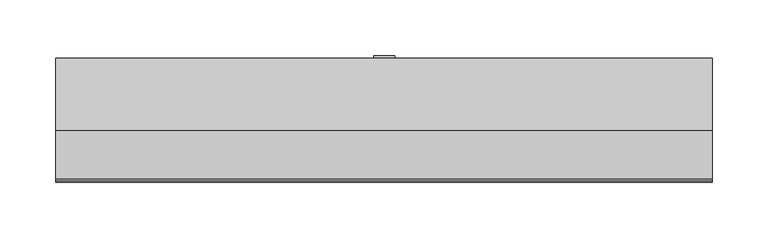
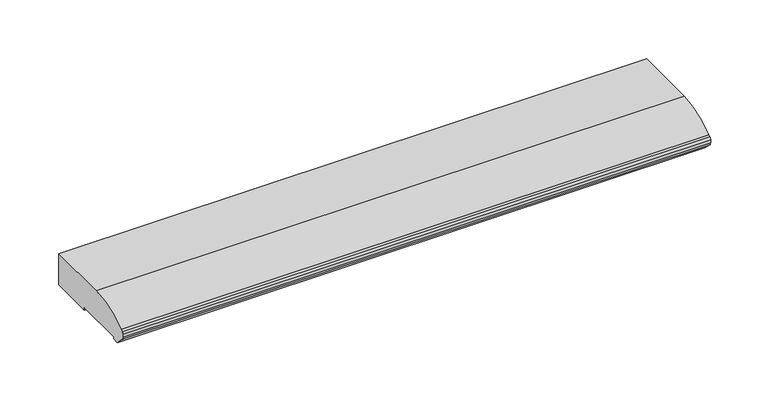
"""IFC4 building model written with IfcOpenShell, lengths in millimetres: furniture geometry, Steelcase - Answer Solution - Lighting - Bottomline Shelf Light : With Daisy Chain Cord - 23 1/4W."""

from ifc_helpers import new_model, si_unit, point, frame, frame_2d, origin, place, context, project, spatial, polyline, circle_curve, trimmed, segment, composite_curve, outline, extrude, source, transform, mapped, element, save


def furniture_37d5e29d(model_context):
    return source(origin(), model_context, "Body", "SweptSolid", [
        extrude(outline(polyline([(104.456825, 1278.001062), (101.9168184, 1278.001062), (101.9168184, 1275.8796799), (94.2968256, 1275.8796799), (94.2968256, 1278.001062), (91.756819, 1278.001062), (91.756819, 1280.4435676), (104.456825, 1280.4435676), (104.456825, 1278.001062)])), frame((-9.2714311, 0.0, 0.0), z_axis=(1.0, 0.0, 0.0), x_axis=(0.0, 1.0, 0.0)), (0.0, 0.0, 1.0), 19.05),
        extrude(outline(polyline([(9.7785689, 126.0468221), (9.7785689, 123.506825), (-9.2714311, 123.506825), (-9.2714311, 126.0468221), (9.7785689, 126.0468221)])), frame((0.0, 0.0, 1301.4509122), z_axis=(0.0, 0.0, 1.0), x_axis=(1.0, 0.0, 0.0)), (0.0, 0.0, 1.0), 8.9350878),
        extrude(outline(composite_curve([segment(polyline([(58.3812977, 1313.5609554), (123.506825, 1313.5609554), (123.506825, 1280.4435676), (79.056825, 1280.4435676), (79.056825, 1283.0809845), (28.2568216, 1283.0809845), (28.2568216, 1280.541), (21.9068453, 1280.541), (13.476352, 1288.9714933)]), True, "CONTINUOUS"), segment(trimmed(circle_curve(frame_2d((16.4253859, 1291.9205272)), 4.1705637), [point((13.476352, 1288.9714933))], [point((12.2548221, 1291.9205272))], False, "CARTESIAN"), True, "CONTINUOUS"), segment(polyline([(12.2548221, 1291.9205272), (12.2548221, 1295.401678)]), True, "CONTINUOUS"), segment(trimmed(circle_curve(frame_2d((14.6623612, 1295.401678)), 2.407539), [point((12.2548221, 1295.401678))], [point((13.3471912, 1297.4182524))], False, "CARTESIAN"), True, "CONTINUOUS"), segment(trimmed(circle_curve(frame_2d((-7.9940104, 1330.1411108)), 39.0670238), [point((13.3471912, 1297.4182524))], [point((15.1696915, 1298.6820062))], True, "CARTESIAN"), True, "CONTINUOUS"), segment(trimmed(circle_curve(frame_2d((60.566323, 1237.0278984)), 76.564242), [point((15.1696915, 1298.6820062))], [point((58.3812977, 1313.5609554))], False, "CARTESIAN"), True, "CONTINUOUS")], self_intersect=False)), frame((-295.2754311, 0.0, 0.0), z_axis=(1.0, 0.0, 0.0), x_axis=(0.0, 1.0, 0.0)), (0.0, 0.0, 1.0), 590.55),
    ])


if __name__ == "__main__":
    model = new_model("IFC4")
    model_context = context("Model", 3, world=origin())
    ifc_project = project(units=[si_unit("LENGTHUNIT", "METRE", prefix="MILLI")], contexts=[model_context])
    site = spatial("IfcSite", under=ifc_project)
    building = spatial("IfcBuilding", under=site)
    placement = place(None, origin())
    furniture_shape = furniture_37d5e29d(model_context)
    element("IfcFurniture", 1, ObjectType="Steelcase - Answer Solution - Lighting - Bottomline Shelf Light : With Daisy Chain Cord - 23 1/4W", at=placement, inside=building, context=model_context, shape_type="MappedRepresentation", body=[
        mapped(furniture_shape, transform((0.0, 0.0, 0.0), x_axis=(1.0, 0.0, 0.0), y_axis=(0.0, 1.0, 0.0), z_axis=(0.0, 0.0, 1.0))),
    ])
    save(model, "model.ifc")
